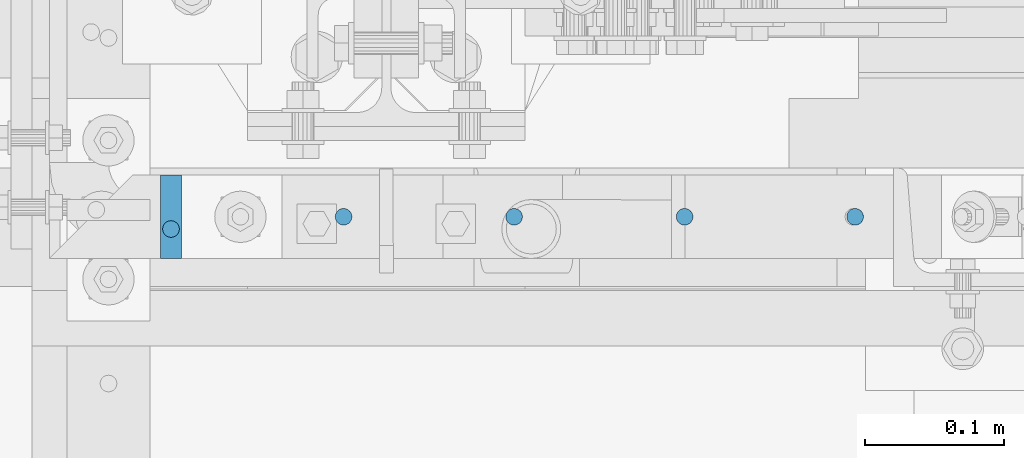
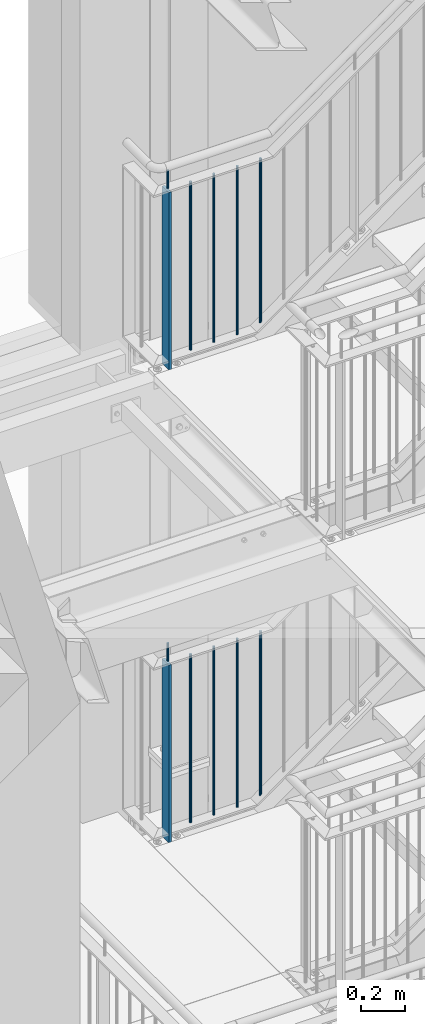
# One storey, part 71 of 831: 12 columns.
"""IFC2X3 building model written with IfcOpenShell, lengths in millimetres."""

from ifc_helpers import new_model, entity, si_unit, converted_unit, frame, origin, origin_with_axes, origin_2d, place, context, project, spatial, rectangle, circle, extrude, clip, halfspace, material, element, save


model = new_model("IFC2X3")

# Units and contexts
model_context = context("Model", 3, precision=1e-09, world=origin_with_axes())
ifc_project = project(units=[si_unit("LENGTHUNIT", "METRE", prefix="MILLI"), si_unit("AREAUNIT", "SQUARE_METRE"), si_unit("VOLUMEUNIT", "CUBIC_METRE"), converted_unit("PLANEANGLEUNIT", "DEGREE", entity("IfcPlaneAngleMeasure", 0.01745329), si_unit("PLANEANGLEUNIT", "RADIAN"), dimensions=[0, 0, 0, 0, 0, 0, 0])], contexts=[model_context])

# Site, building, storey
site_placement = place(None, origin_with_axes())
site = spatial("IfcSite", under=ifc_project, at=site_placement, Name="Site", CompositionType="ELEMENT")
building_placement = place(site_placement, origin_with_axes())
building = spatial("IfcBuilding", under=site, at=building_placement, Name="Struktur 1", CompositionType="ELEMENT")
storey_placement = place(building_placement, origin_with_axes())
storey = spatial("IfcBuildingStorey", under=building, at=storey_placement, Name="Default Storey", CompositionType="ELEMENT", Elevation=0.0)

# Columns
ifc_material = material(Name="S235JR")
column_1_placement = place(None, frame((4701.713402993, 7347.936971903, 8447.285281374), z_axis=(0.0, 0.0, 1.0), x_axis=(0.0, -1.0, 0.0)))
element("IfcColumn", 1, at=column_1_placement, inside=storey, material=ifc_material, Name="Bar#0", ObjectType="Bar#0", context=model_context, shape_type="Clipping", body=[
    clip(clip(extrude(circle(Radius=6.0, at=origin_2d()), origin(), (0.0, 0.0, -1.0), 116.970562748), halfspace(frame((7347.936971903, -4701.713402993, -8.486281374), z_axis=(0.0, 0.0, -1.0), x_axis=(0.0, -1.0, 0.0)), True)), halfspace(frame((7347.936971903, -4701.713402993, -108.484281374), z_axis=(0.0, 0.0, 1.0), x_axis=(0.0, 1.0, 0.0)), True)),
])
column_2_placement = place(None, frame((4701.713402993, 7356.736971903, 8359.723292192), z_axis=(0.0, 0.0, 1.0), x_axis=(1.0, 0.0, 0.0)))
element("IfcColumn", 2, at=column_2_placement, inside=storey, material=ifc_material, Name="Railing_Post_Landing#0", ObjectType="Railing_Post_Landing#0", context=model_context, shape_type="Clipping", body=[
    clip(clip(extrude(rectangle(XDim=15.0, YDim=60.0, at=origin_2d()), origin(), (0.0, 0.0, -1.0), 1070.646584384), halfspace(frame((-4701.713402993, -7356.736971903, -1019.722292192), z_axis=(0.0, 0.0, 1.0), x_axis=(1.0, 0.0, 0.0)), True)), halfspace(frame((-4701.713402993, -7356.736971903, -30.924292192), z_axis=(0.0, 0.0, -1.0), x_axis=(-1.0, 0.0, 0.0)), True)),
])
column_3_placement = place(None, frame((4825.963402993, 7356.736971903, 8342.285281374), z_axis=(0.0, 0.0, 1.0), x_axis=(1.0, 0.0, 0.0)))
element("IfcColumn", 3, at=column_3_placement, inside=storey, material=ifc_material, Name="Railing_Picket_Landing#0", ObjectType="Railing_Picket_Landing#0", context=model_context, shape_type="Clipping", body=[
    clip(clip(extrude(circle(Radius=6.0, at=origin_2d()), origin(), (0.0, 0.0, -1.0), 965.770562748), halfspace(frame((-4825.963402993, -7356.736971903, -13.486281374), z_axis=(0.0, 0.0, -1.0), x_axis=(-1.0, 0.0, 0.0)), True)), halfspace(frame((-4825.963402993, -7356.736971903, -952.284281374), z_axis=(0.0, 0.0, 1.0), x_axis=(1.0, 0.0, 0.0)), True)),
])
column_4_placement = place(None, frame((4948.713426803, 7356.736971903, 8342.285281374), z_axis=(0.0, 0.0, 1.0), x_axis=(1.0, 0.0, 0.0)))
element("IfcColumn", 4, at=column_4_placement, inside=storey, material=ifc_material, Name="Railing_Picket_Landing#1", ObjectType="Railing_Picket_Landing#1", context=model_context, shape_type="Clipping", body=[
    clip(clip(extrude(circle(Radius=6.0, at=origin_2d()), origin(), (0.0, 0.0, -1.0), 965.770562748), halfspace(frame((-4948.713426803, -7356.736971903, -13.486281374), z_axis=(0.0, 0.0, -1.0), x_axis=(-1.0, 0.0, 0.0)), True)), halfspace(frame((-4948.713426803, -7356.736971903, -952.284281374), z_axis=(0.0, 0.0, 1.0), x_axis=(1.0, 0.0, 0.0)), True)),
])
column_5_placement = place(None, frame((5071.463450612, 7356.736971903, 8342.285281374), z_axis=(0.0, 0.0, 1.0), x_axis=(1.0, 0.0, 0.0)))
element("IfcColumn", 5, at=column_5_placement, inside=storey, material=ifc_material, Name="Railing_Picket_Landing#2", ObjectType="Railing_Picket_Landing#2", context=model_context, shape_type="Clipping", body=[
    clip(extrude(circle(Radius=6.0, at=origin_2d()), origin(), (0.0, 0.0, -1.0), 952.285281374), halfspace(frame((-5071.463450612, -7356.736971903, -13.486281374), z_axis=(0.0, 0.0, -1.0), x_axis=(-1.0, 0.0, 0.0)), True)),
])
column_6_placement = place(None, frame((5194.213474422, 7356.736971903, 8328.8), z_axis=(0.0, 0.0, 1.0), x_axis=(1.0, 0.0, 0.0)))
element("IfcColumn", 6, at=column_6_placement, inside=storey, material=ifc_material, Name="Railing_Picket_Stair#3", ObjectType="Railing_Picket_Stair#3", context=model_context, shape_type="Clipping", body=[
    clip(extrude(circle(Radius=6.0, at=origin_2d()), origin(), (0.0, 0.0, -1.0), 923.619455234), halfspace(frame((-6931.981901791, -7356.736971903, -5925.503238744), z_axis=(-0.585945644, 0.0, 0.810350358), x_axis=(0.0, -1.0, 0.0)), True)),
])
column_7_placement = place(None, frame((4701.713402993, 7356.736971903, 10991.723292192), z_axis=(0.0, 0.0, 1.0), x_axis=(1.0, 0.0, 0.0)))
element("IfcColumn", 7, at=column_7_placement, inside=storey, material=ifc_material, Name="Railing_Post_Landing#0", ObjectType="Railing_Post_Landing#0", context=model_context, shape_type="Clipping", body=[
    clip(clip(extrude(rectangle(XDim=15.0, YDim=60.0, at=origin_2d()), origin(), (0.0, 0.0, -1.0), 1070.646584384), halfspace(frame((-4701.713402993, -7356.736971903, -1019.722292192), z_axis=(0.0, 0.0, 1.0), x_axis=(1.0, 0.0, 0.0)), True)), halfspace(frame((-4701.713402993, -7356.736971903, -30.924292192), z_axis=(0.0, 0.0, -1.0), x_axis=(-1.0, 0.0, 0.0)), True)),
])
column_8_placement = place(None, frame((4825.963402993, 7356.736971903, 10974.285281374), z_axis=(0.0, 0.0, 1.0), x_axis=(1.0, 0.0, 0.0)))
element("IfcColumn", 8, at=column_8_placement, inside=storey, material=ifc_material, Name="Railing_Picket_Landing#0", ObjectType="Railing_Picket_Landing#0", context=model_context, shape_type="Clipping", body=[
    clip(clip(extrude(circle(Radius=6.0, at=origin_2d()), origin(), (0.0, 0.0, -1.0), 965.770562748), halfspace(frame((-4825.963402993, -7356.736971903, -13.486281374), z_axis=(0.0, 0.0, -1.0), x_axis=(-1.0, 0.0, 0.0)), True)), halfspace(frame((-4825.963402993, -7356.736971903, -952.284281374), z_axis=(0.0, 0.0, 1.0), x_axis=(1.0, 0.0, 0.0)), True)),
])
column_9_placement = place(None, frame((4948.713426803, 7356.736971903, 10974.285281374), z_axis=(0.0, 0.0, 1.0), x_axis=(1.0, 0.0, 0.0)))
element("IfcColumn", 9, at=column_9_placement, inside=storey, material=ifc_material, Name="Railing_Picket_Landing#1", ObjectType="Railing_Picket_Landing#1", context=model_context, shape_type="Clipping", body=[
    clip(clip(extrude(circle(Radius=6.0, at=origin_2d()), origin(), (0.0, 0.0, -1.0), 965.770562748), halfspace(frame((-4948.713426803, -7356.736971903, -13.486281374), z_axis=(0.0, 0.0, -1.0), x_axis=(-1.0, 0.0, 0.0)), True)), halfspace(frame((-4948.713426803, -7356.736971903, -952.284281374), z_axis=(0.0, 0.0, 1.0), x_axis=(1.0, 0.0, 0.0)), True)),
])
column_10_placement = place(None, frame((5071.463450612, 7356.736971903, 10974.285281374), z_axis=(0.0, 0.0, 1.0), x_axis=(1.0, 0.0, 0.0)))
element("IfcColumn", 10, at=column_10_placement, inside=storey, material=ifc_material, Name="Railing_Picket_Landing#2", ObjectType="Railing_Picket_Landing#2", context=model_context, shape_type="Clipping", body=[
    clip(clip(extrude(circle(Radius=6.0, at=origin_2d()), origin(), (0.0, 0.0, -1.0), 965.770562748), halfspace(frame((-5071.463450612, -7356.736971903, -13.486281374), z_axis=(0.0, 0.0, -1.0), x_axis=(-1.0, 0.0, 0.0)), True)), halfspace(frame((-5071.463450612, -7356.736971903, -952.284281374), z_axis=(0.0, 0.0, 1.0), x_axis=(1.0, 0.0, 0.0)), True)),
])
column_11_placement = place(None, frame((5194.213474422, 7356.736971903, 10960.8), z_axis=(0.0, 0.0, 1.0), x_axis=(1.0, 0.0, 0.0)))
element("IfcColumn", 11, at=column_11_placement, inside=storey, material=ifc_material, Name="Railing_Picket_Stair#3", ObjectType="Railing_Picket_Stair#3", context=model_context, shape_type="Clipping", body=[
    clip(extrude(circle(Radius=6.0, at=origin_2d()), origin(), (0.0, 0.0, -1.0), 923.610556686), halfspace(frame((-8183.31391831, -7356.736971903, -6819.069656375), z_axis=(-0.585213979, 0.0, 0.810878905), x_axis=(0.0, -1.0, 0.0)), True)),
])
column_12_placement = place(None, frame((4701.713402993, 7347.936971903, 11079.285281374), z_axis=(0.0, 0.0, 1.0), x_axis=(0.0, -1.0, 0.0)))
element("IfcColumn", 12, at=column_12_placement, inside=storey, material=ifc_material, Name="Bar#0", ObjectType="Bar#0", context=model_context, shape_type="Clipping", body=[
    clip(clip(extrude(circle(Radius=6.0, at=origin_2d()), origin(), (0.0, 0.0, -1.0), 116.970562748), halfspace(frame((7347.936971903, -4701.713402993, -8.486281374), z_axis=(0.0, 0.0, -1.0), x_axis=(0.0, -1.0, 0.0)), True)), halfspace(frame((7347.936971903, -4701.713402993, -108.484281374), z_axis=(0.0, 0.0, 1.0), x_axis=(0.0, 1.0, 0.0)), True)),
])

save(model, "model.ifc")
